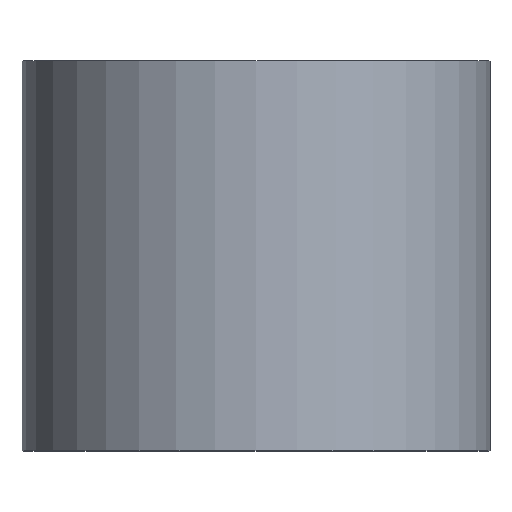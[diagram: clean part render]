
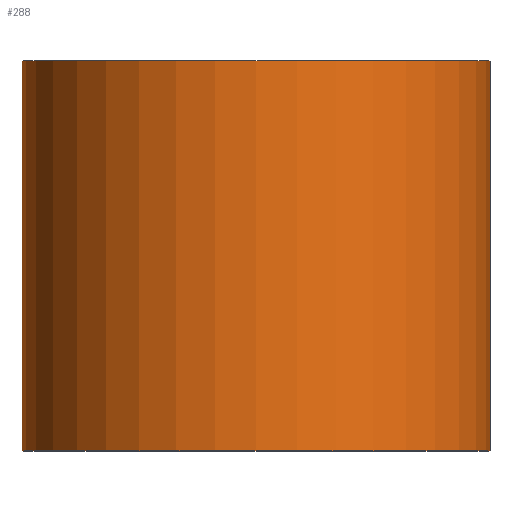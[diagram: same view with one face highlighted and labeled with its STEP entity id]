
A CAD part, top view. The second image highlights one B-rep face of the part: STEP entity #288.
In plain terms, the highlighted cylindrical face has radius 6 mm (diameter 12 mm), a partial arc.
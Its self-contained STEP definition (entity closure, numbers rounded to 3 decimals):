
#2 = CIRCLE ( 'NONE', #242, 6. ) ;
#7 = CARTESIAN_POINT ( 'NONE',  ( -6., 0., 0. ) ) ;
#13 = VERTEX_POINT ( 'NONE', #247 ) ;
#48 = ORIENTED_EDGE ( 'NONE', *, *, #194, .T. ) ;
#50 = VERTEX_POINT ( 'NONE', #93 ) ;
#55 = DIRECTION ( 'NONE',  ( -1., 0., 0. ) ) ;
#63 = CYLINDRICAL_SURFACE ( 'NONE', #300, 6. ) ;
#74 = DIRECTION ( 'NONE',  ( -1., 0., 0. ) ) ;
#83 = CARTESIAN_POINT ( 'NONE',  ( 0., 0., 0. ) ) ;
#92 = EDGE_CURVE ( 'NONE', #13, #119, #223, .T. ) ;
#93 = CARTESIAN_POINT ( 'NONE',  ( 6., 0., 0. ) ) ;
#98 = AXIS2_PLACEMENT_3D ( 'NONE', #189, #100, #74 ) ;
#100 = DIRECTION ( 'NONE',  ( 0., 1., 0. ) ) ;
#101 = EDGE_CURVE ( 'NONE', #50, #119, #153, .T. ) ;
#108 = ORIENTED_EDGE ( 'NONE', *, *, #158, .F. ) ;
#116 = ORIENTED_EDGE ( 'NONE', *, *, #92, .F. ) ;
#119 = VERTEX_POINT ( 'NONE', #211 ) ;
#120 = DIRECTION ( 'NONE',  ( 0., 1., 0. ) ) ;
#135 = EDGE_LOOP ( 'NONE', ( #48, #204, #116, #108 ) ) ;
#147 = VECTOR ( 'NONE', #120, 1000. ) ;
#153 = LINE ( 'NONE', #210, #147 ) ;
#156 = VERTEX_POINT ( 'NONE', #283 ) ;
#158 = EDGE_CURVE ( 'NONE', #156, #13, #181, .T. ) ;
#169 = DIRECTION ( 'NONE',  ( 0., 1., 0. ) ) ;
#181 = LINE ( 'NONE', #7, #287 ) ;
#189 = CARTESIAN_POINT ( 'NONE',  ( 0., 10., 0. ) ) ;
#194 = EDGE_CURVE ( 'NONE', #156, #50, #2, .T. ) ;
#204 = ORIENTED_EDGE ( 'NONE', *, *, #101, .T. ) ;
#210 = CARTESIAN_POINT ( 'NONE',  ( 6., 0., 0. ) ) ;
#211 = CARTESIAN_POINT ( 'NONE',  ( 6., 10., 0. ) ) ;
#217 = DIRECTION ( 'NONE',  ( 0., 1., 0. ) ) ;
#223 = CIRCLE ( 'NONE', #98, 6. ) ;
#229 = DIRECTION ( 'NONE',  ( 0., 1., 0. ) ) ;
#235 = CARTESIAN_POINT ( 'NONE',  ( 0., 0., 0. ) ) ;
#242 = AXIS2_PLACEMENT_3D ( 'NONE', #83, #169, #285 ) ;
#247 = CARTESIAN_POINT ( 'NONE',  ( -6., 10., 0. ) ) ;
#283 = CARTESIAN_POINT ( 'NONE',  ( -6., 0., 0. ) ) ;
#285 = DIRECTION ( 'NONE',  ( -1., 0., 0. ) ) ;
#287 = VECTOR ( 'NONE', #229, 1000. ) ;
#288 = ADVANCED_FACE ( 'NONE', ( #291 ), #63, .T. ) ;
#291 = FACE_OUTER_BOUND ( 'NONE', #135, .T. ) ;
#300 = AXIS2_PLACEMENT_3D ( 'NONE', #235, #217, #55 ) ;
